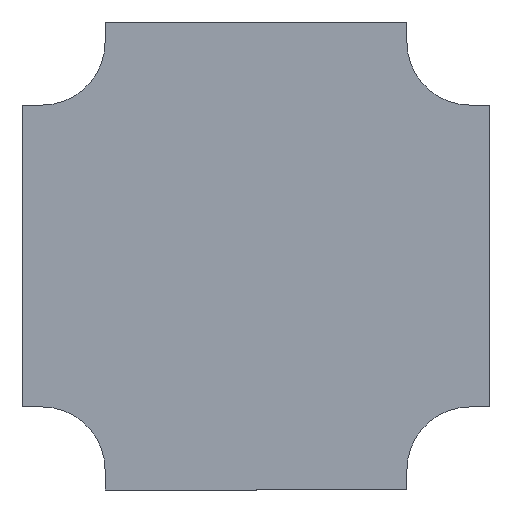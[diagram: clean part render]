
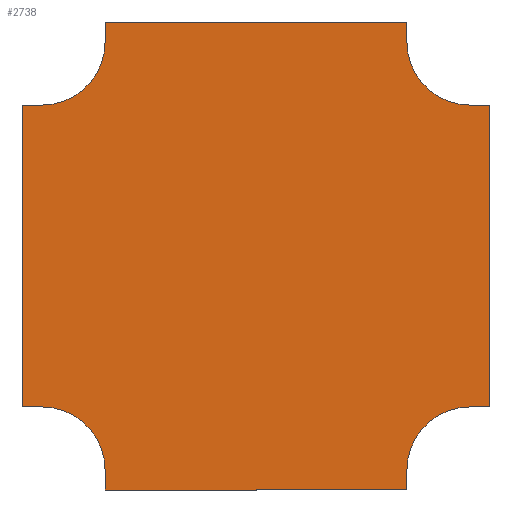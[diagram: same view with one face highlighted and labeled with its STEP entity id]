
A CAD part, front view. The second image highlights one B-rep face of the part: STEP entity #2738.
In plain terms, the highlighted planar face has unit normal (0, -1, 0).
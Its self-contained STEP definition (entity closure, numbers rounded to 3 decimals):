
#24 = CARTESIAN_POINT ( 'NONE',  ( -125., 0., 40. ) ) ;
#35 = DIRECTION ( 'NONE',  ( 0., 0., -1. ) ) ;
#51 = VECTOR ( 'NONE', #820, 1000. ) ;
#77 = LINE ( 'NONE', #2081, #51 ) ;
#84 = DIRECTION ( 'NONE',  ( 0., 0., -1. ) ) ;
#109 = CARTESIAN_POINT ( 'NONE',  ( -725., 0., -890. ) ) ;
#113 = VERTEX_POINT ( 'NONE', #226 ) ;
#150 = VECTOR ( 'NONE', #84, 1000. ) ;
#197 = CARTESIAN_POINT ( 'NONE',  ( 0., 0., 0. ) ) ;
#226 = CARTESIAN_POINT ( 'NONE',  ( -725., 0., 40. ) ) ;
#257 = VERTEX_POINT ( 'NONE', #1419 ) ;
#259 = CIRCLE ( 'NONE', #473, 125. ) ;
#283 = ORIENTED_EDGE ( 'NONE', *, *, #949, .F. ) ;
#290 = CARTESIAN_POINT ( 'NONE',  ( -850., 0., -850. ) ) ;
#293 = VERTEX_POINT ( 'NONE', #1167 ) ;
#311 = ORIENTED_EDGE ( 'NONE', *, *, #1868, .F. ) ;
#356 = CIRCLE ( 'NONE', #1094, 125. ) ;
#392 = CARTESIAN_POINT ( 'NONE',  ( -725., 0., -850. ) ) ;
#418 = VECTOR ( 'NONE', #824, 1000. ) ;
#422 = DIRECTION ( 'NONE',  ( 0., 0., -1. ) ) ;
#428 = VERTEX_POINT ( 'NONE', #24 ) ;
#473 = AXIS2_PLACEMENT_3D ( 'NONE', #2299, #1087, #2048 ) ;
#568 = CARTESIAN_POINT ( 'NONE',  ( 0., 0., -850. ) ) ;
#634 = CARTESIAN_POINT ( 'NONE',  ( -725., 0., -890. ) ) ;
#638 = ORIENTED_EDGE ( 'NONE', *, *, #929, .F. ) ;
#659 = VERTEX_POINT ( 'NONE', #1560 ) ;
#663 = EDGE_CURVE ( 'NONE', #2078, #113, #838, .T. ) ;
#664 = EDGE_CURVE ( 'NONE', #293, #2078, #259, .T. ) ;
#689 = VECTOR ( 'NONE', #1728, 1000. ) ;
#695 = AXIS2_PLACEMENT_3D ( 'NONE', #568, #2597, #1338 ) ;
#714 = DIRECTION ( 'NONE',  ( 1., 0., 0. ) ) ;
#729 = EDGE_CURVE ( 'NONE', #2060, #2699, #2925, .T. ) ;
#748 = CIRCLE ( 'NONE', #3086, 125. ) ;
#752 = CARTESIAN_POINT ( 'NONE',  ( -125., 0., -890. ) ) ;
#820 = DIRECTION ( 'NONE',  ( -1., 0., 0. ) ) ;
#824 = DIRECTION ( 'NONE',  ( 0., 0., 1. ) ) ;
#838 = LINE ( 'NONE', #1289, #418 ) ;
#861 = ORIENTED_EDGE ( 'NONE', *, *, #2107, .F. ) ;
#865 = ORIENTED_EDGE ( 'NONE', *, *, #729, .F. ) ;
#882 = VECTOR ( 'NONE', #1611, 1000. ) ;
#929 = EDGE_CURVE ( 'NONE', #113, #428, #1764, .T. ) ;
#944 = CARTESIAN_POINT ( 'NONE',  ( -890., 0., -725. ) ) ;
#949 = EDGE_CURVE ( 'NONE', #2699, #293, #2238, .T. ) ;
#980 = VERTEX_POINT ( 'NONE', #1587 ) ;
#1039 = EDGE_CURVE ( 'NONE', #2448, #2060, #2095, .T. ) ;
#1055 = LINE ( 'NONE', #1866, #150 ) ;
#1087 = DIRECTION ( 'NONE',  ( 0., -1., 0. ) ) ;
#1094 = AXIS2_PLACEMENT_3D ( 'NONE', #290, #1307, #35 ) ;
#1099 = EDGE_CURVE ( 'NONE', #659, #2610, #77, .T. ) ;
#1116 = VECTOR ( 'NONE', #1677, 1000. ) ;
#1167 = CARTESIAN_POINT ( 'NONE',  ( -850., 0., -125. ) ) ;
#1174 = EDGE_LOOP ( 'NONE', ( #638, #2304, #1619, #283, #865, #3163, #2214, #1255, #2723, #861, #2441, #2757, #3056, #311, #1884, #3198 ) ) ;
#1197 = DIRECTION ( 'NONE',  ( 0., -1., 0. ) ) ;
#1255 = ORIENTED_EDGE ( 'NONE', *, *, #3206, .F. ) ;
#1257 = EDGE_CURVE ( 'NONE', #428, #257, #2481, .T. ) ;
#1289 = CARTESIAN_POINT ( 'NONE',  ( -725., 0., 40. ) ) ;
#1307 = DIRECTION ( 'NONE',  ( 0., -1., 0. ) ) ;
#1338 = DIRECTION ( 'NONE',  ( 0., 0., 1. ) ) ;
#1419 = CARTESIAN_POINT ( 'NONE',  ( -125., 0., 0. ) ) ;
#1420 = EDGE_CURVE ( 'NONE', #2157, #980, #1055, .T. ) ;
#1437 = VECTOR ( 'NONE', #1815, 1000. ) ;
#1440 = CIRCLE ( 'NONE', #695, 125. ) ;
#1560 = CARTESIAN_POINT ( 'NONE',  ( -125., 0., -890. ) ) ;
#1587 = CARTESIAN_POINT ( 'NONE',  ( 40., 0., -725. ) ) ;
#1590 = DIRECTION ( 'NONE',  ( 1., 0., 0. ) ) ;
#1600 = VECTOR ( 'NONE', #714, 1000. ) ;
#1611 = DIRECTION ( 'NONE',  ( -1., 0., 0. ) ) ;
#1619 = ORIENTED_EDGE ( 'NONE', *, *, #664, .F. ) ;
#1621 = CARTESIAN_POINT ( 'NONE',  ( 0., 0., -125. ) ) ;
#1641 = CARTESIAN_POINT ( 'NONE',  ( -890., 0., -125. ) ) ;
#1677 = DIRECTION ( 'NONE',  ( 0., 0., 1. ) ) ;
#1728 = DIRECTION ( 'NONE',  ( 1., 0., 0. ) ) ;
#1731 = VERTEX_POINT ( 'NONE', #3248 ) ;
#1739 = VERTEX_POINT ( 'NONE', #3017 ) ;
#1741 = CARTESIAN_POINT ( 'NONE',  ( -850., 0., -725. ) ) ;
#1764 = LINE ( 'NONE', #1975, #689 ) ;
#1815 = DIRECTION ( 'NONE',  ( -1., 0., 0. ) ) ;
#1866 = CARTESIAN_POINT ( 'NONE',  ( 40., 0., -125. ) ) ;
#1868 = EDGE_CURVE ( 'NONE', #2677, #2157, #2067, .T. ) ;
#1884 = ORIENTED_EDGE ( 'NONE', *, *, #2355, .F. ) ;
#1932 = CARTESIAN_POINT ( 'NONE',  ( 0., 0., 0. ) ) ;
#1943 = DIRECTION ( 'NONE',  ( 0., 0., 1. ) ) ;
#1954 = VECTOR ( 'NONE', #1590, 1000. ) ;
#1975 = CARTESIAN_POINT ( 'NONE',  ( -725., 0., 40. ) ) ;
#2044 = CARTESIAN_POINT ( 'NONE',  ( -850., 0., -725. ) ) ;
#2048 = DIRECTION ( 'NONE',  ( 0., 0., 1. ) ) ;
#2060 = VERTEX_POINT ( 'NONE', #944 ) ;
#2067 = LINE ( 'NONE', #1621, #1954 ) ;
#2078 = VERTEX_POINT ( 'NONE', #3046 ) ;
#2081 = CARTESIAN_POINT ( 'NONE',  ( -725., 0., -890. ) ) ;
#2095 = LINE ( 'NONE', #2044, #1437 ) ;
#2107 = EDGE_CURVE ( 'NONE', #1739, #659, #2491, .T. ) ;
#2108 = CARTESIAN_POINT ( 'NONE',  ( -125., 0., 40. ) ) ;
#2157 = VERTEX_POINT ( 'NONE', #2861 ) ;
#2197 = DIRECTION ( 'NONE',  ( 0., -1., 0. ) ) ;
#2214 = ORIENTED_EDGE ( 'NONE', *, *, #3112, .F. ) ;
#2215 = VECTOR ( 'NONE', #422, 1000. ) ;
#2238 = LINE ( 'NONE', #3260, #1600 ) ;
#2268 = EDGE_CURVE ( 'NONE', #1731, #1739, #1440, .T. ) ;
#2299 = CARTESIAN_POINT ( 'NONE',  ( -850., 0., 0. ) ) ;
#2304 = ORIENTED_EDGE ( 'NONE', *, *, #663, .F. ) ;
#2355 = EDGE_CURVE ( 'NONE', #257, #2677, #748, .T. ) ;
#2386 = VECTOR ( 'NONE', #2995, 1000. ) ;
#2403 = FACE_OUTER_BOUND ( 'NONE', #1174, .T. ) ;
#2419 = VECTOR ( 'NONE', #1943, 1000. ) ;
#2441 = ORIENTED_EDGE ( 'NONE', *, *, #2268, .F. ) ;
#2448 = VERTEX_POINT ( 'NONE', #1741 ) ;
#2465 = PLANE ( 'NONE',  #3302 ) ;
#2481 = LINE ( 'NONE', #2108, #2215 ) ;
#2491 = LINE ( 'NONE', #752, #2386 ) ;
#2597 = DIRECTION ( 'NONE',  ( 0., -1., 0. ) ) ;
#2610 = VERTEX_POINT ( 'NONE', #109 ) ;
#2648 = LINE ( 'NONE', #634, #2419 ) ;
#2657 = DIRECTION ( 'NONE',  ( 0., 0., -1. ) ) ;
#2677 = VERTEX_POINT ( 'NONE', #3181 ) ;
#2699 = VERTEX_POINT ( 'NONE', #1641 ) ;
#2723 = ORIENTED_EDGE ( 'NONE', *, *, #1099, .F. ) ;
#2738 = ADVANCED_FACE ( 'NONE', ( #2403 ), #2465, .T. ) ;
#2757 = ORIENTED_EDGE ( 'NONE', *, *, #2962, .F. ) ;
#2770 = LINE ( 'NONE', #3067, #882 ) ;
#2781 = DIRECTION ( 'NONE',  ( 0., 0., -1. ) ) ;
#2802 = VERTEX_POINT ( 'NONE', #392 ) ;
#2861 = CARTESIAN_POINT ( 'NONE',  ( 40., 0., -125. ) ) ;
#2925 = LINE ( 'NONE', #3156, #1116 ) ;
#2962 = EDGE_CURVE ( 'NONE', #980, #1731, #2770, .T. ) ;
#2995 = DIRECTION ( 'NONE',  ( 0., 0., -1. ) ) ;
#3017 = CARTESIAN_POINT ( 'NONE',  ( -125., 0., -850. ) ) ;
#3046 = CARTESIAN_POINT ( 'NONE',  ( -725., 0., 0. ) ) ;
#3056 = ORIENTED_EDGE ( 'NONE', *, *, #1420, .F. ) ;
#3067 = CARTESIAN_POINT ( 'NONE',  ( 0., 0., -725. ) ) ;
#3086 = AXIS2_PLACEMENT_3D ( 'NONE', #197, #1197, #2781 ) ;
#3112 = EDGE_CURVE ( 'NONE', #2802, #2448, #356, .T. ) ;
#3156 = CARTESIAN_POINT ( 'NONE',  ( -890., 0., -125. ) ) ;
#3163 = ORIENTED_EDGE ( 'NONE', *, *, #1039, .F. ) ;
#3181 = CARTESIAN_POINT ( 'NONE',  ( 0., 0., -125. ) ) ;
#3198 = ORIENTED_EDGE ( 'NONE', *, *, #1257, .F. ) ;
#3206 = EDGE_CURVE ( 'NONE', #2610, #2802, #2648, .T. ) ;
#3248 = CARTESIAN_POINT ( 'NONE',  ( 0., 0., -725. ) ) ;
#3260 = CARTESIAN_POINT ( 'NONE',  ( -850., 0., -125. ) ) ;
#3302 = AXIS2_PLACEMENT_3D ( 'NONE', #1932, #2197, #2657 ) ;
